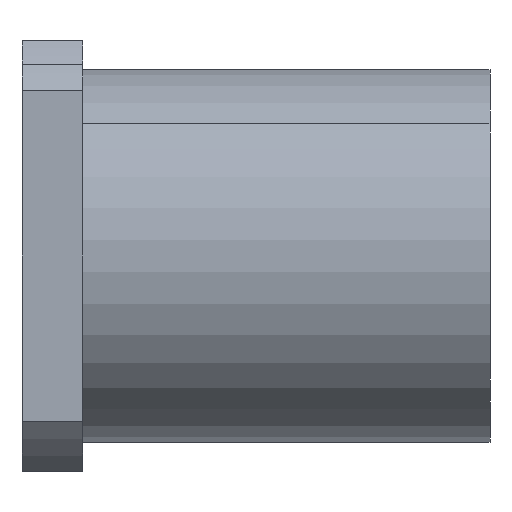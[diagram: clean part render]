
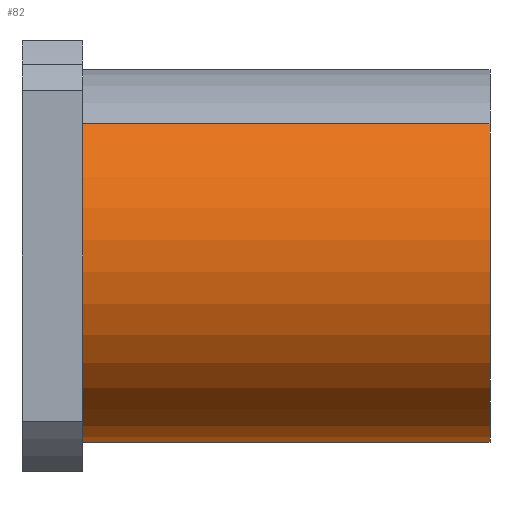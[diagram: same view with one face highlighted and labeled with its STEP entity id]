
A CAD part, front view. The second image highlights one B-rep face of the part: STEP entity #82.
In plain terms, the highlighted cylindrical face has radius 40 mm (diameter 80 mm), a partial arc.
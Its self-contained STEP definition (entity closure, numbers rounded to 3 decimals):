
#22 = EDGE_CURVE ( 'NONE', #582, #878, #129, .T. ) ;
#64 = CARTESIAN_POINT ( 'NONE',  ( 13., -28.284, 28.284 ) ) ;
#82 = ADVANCED_FACE ( 'NONE', ( #513 ), #438, .T. ) ;
#129 = LINE ( 'NONE', #1026, #510 ) ;
#132 = EDGE_CURVE ( 'NONE', #1014, #878, #908, .T. ) ;
#138 = CARTESIAN_POINT ( 'NONE',  ( 13., 28.284, -28.284 ) ) ;
#170 = CARTESIAN_POINT ( 'NONE',  ( 100., -28.284, 28.284 ) ) ;
#172 = ORIENTED_EDGE ( 'NONE', *, *, #22, .F. ) ;
#186 = DIRECTION ( 'NONE',  ( 1., 0., 0. ) ) ;
#196 = LINE ( 'NONE', #917, #565 ) ;
#198 = VERTEX_POINT ( 'NONE', #170 ) ;
#253 = EDGE_CURVE ( 'NONE', #198, #582, #969, .T. ) ;
#306 = ORIENTED_EDGE ( 'NONE', *, *, #132, .T. ) ;
#336 = CARTESIAN_POINT ( 'NONE',  ( 100., 28.284, -28.284 ) ) ;
#354 = DIRECTION ( 'NONE',  ( 0., 0.707, -0.707 ) ) ;
#438 = CYLINDRICAL_SURFACE ( 'NONE', #987, 40. ) ;
#510 = VECTOR ( 'NONE', #1120, 1000. ) ;
#513 = FACE_OUTER_BOUND ( 'NONE', #760, .T. ) ;
#551 = DIRECTION ( 'NONE',  ( -1., 0., 0. ) ) ;
#565 = VECTOR ( 'NONE', #551, 1000. ) ;
#582 = VERTEX_POINT ( 'NONE', #336 ) ;
#608 = AXIS2_PLACEMENT_3D ( 'NONE', #733, #186, #721 ) ;
#611 = CARTESIAN_POINT ( 'NONE',  ( 13., 0., 0. ) ) ;
#721 = DIRECTION ( 'NONE',  ( 0., 0.707, -0.707 ) ) ;
#733 = CARTESIAN_POINT ( 'NONE',  ( 100., 0., 0. ) ) ;
#757 = EDGE_CURVE ( 'NONE', #198, #1014, #196, .T. ) ;
#760 = EDGE_LOOP ( 'NONE', ( #944, #975, #306, #172 ) ) ;
#781 = DIRECTION ( 'NONE',  ( 0., 0.707, -0.707 ) ) ;
#793 = DIRECTION ( 'NONE',  ( -1., 0., 0. ) ) ;
#797 = CARTESIAN_POINT ( 'NONE',  ( 100., 0., 0. ) ) ;
#878 = VERTEX_POINT ( 'NONE', #138 ) ;
#908 = CIRCLE ( 'NONE', #1157, 40. ) ;
#917 = CARTESIAN_POINT ( 'NONE',  ( 100., -28.284, 28.284 ) ) ;
#944 = ORIENTED_EDGE ( 'NONE', *, *, #253, .F. ) ;
#969 = CIRCLE ( 'NONE', #608, 40. ) ;
#975 = ORIENTED_EDGE ( 'NONE', *, *, #757, .T. ) ;
#987 = AXIS2_PLACEMENT_3D ( 'NONE', #797, #793, #354 ) ;
#1014 = VERTEX_POINT ( 'NONE', #64 ) ;
#1026 = CARTESIAN_POINT ( 'NONE',  ( 100., 28.284, -28.284 ) ) ;
#1120 = DIRECTION ( 'NONE',  ( -1., 0., 0. ) ) ;
#1156 = DIRECTION ( 'NONE',  ( 1., 0., 0. ) ) ;
#1157 = AXIS2_PLACEMENT_3D ( 'NONE', #611, #1156, #781 ) ;
